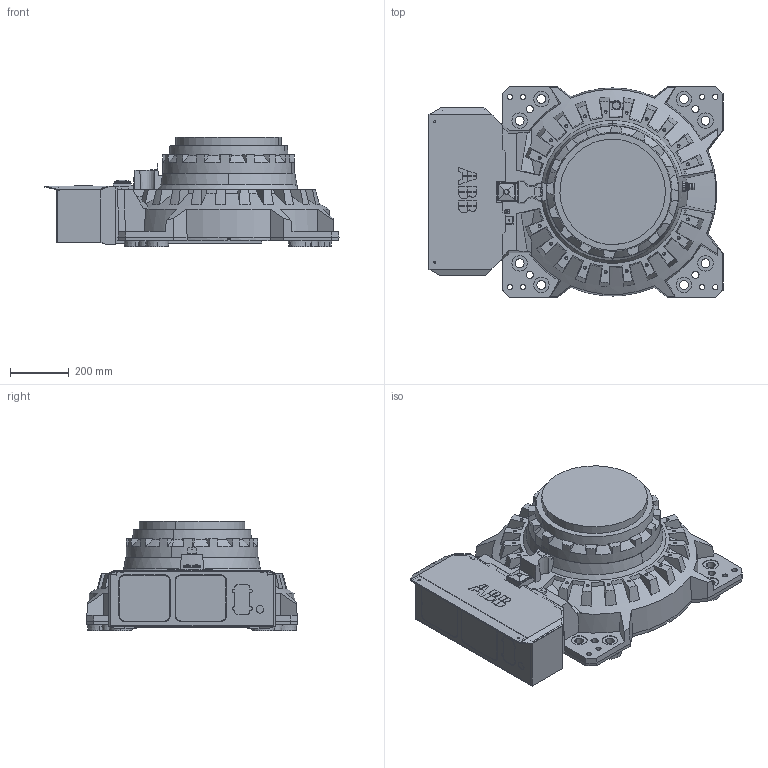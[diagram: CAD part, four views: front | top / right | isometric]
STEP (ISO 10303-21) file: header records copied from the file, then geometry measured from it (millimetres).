
FILE_DESCRIPTION (( 'STEP AP203' ), '1' );
FILE_NAME ('IRB6700_200_280_MH_base_CAD_00.STEP', '2013-10-23T12:31:50', ( 'ABB' ), ( 'ABB' ), 'SwSTEP 2.0', 'SolidWorks 2012', '' );
FILE_SCHEMA (( 'CONFIG_CONTROL_DESIGN' ));
Length unit declared in the file: millimetre
Products named in the file (1): IRB6700_200_280_MH_base_CAD_00
Bounding box: 1004 x 720 x 373.5 mm (x, y, z)
Volume: 118101869.2 mm3; surface area: 2358625.7 mm2
Topology: 1 solids, 2 shells, 1060 faces, 2837 edges, 1819 vertices
Faces by surface type: plane 579, cylinder 256, cone 217, bspline 6, torus 2
Entity records: 33680 total; most frequent: CARTESIAN_POINT 7310, ORIENTED_EDGE 5586, DIRECTION 5355, EDGE_CURVE 2793, AXIS2_PLACEMENT_3D 1892, VERTEX_POINT 1819, LINE 1571, VECTOR 1571
